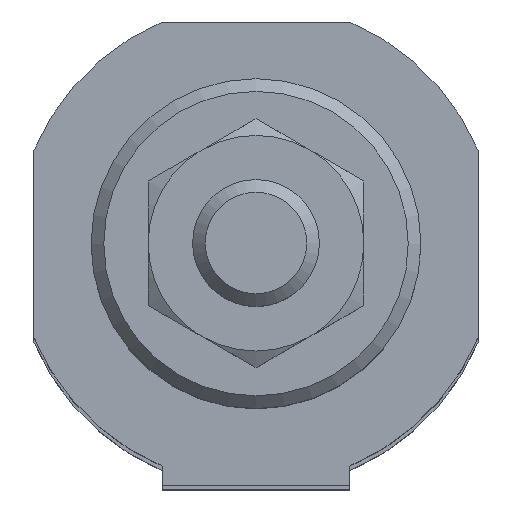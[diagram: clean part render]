
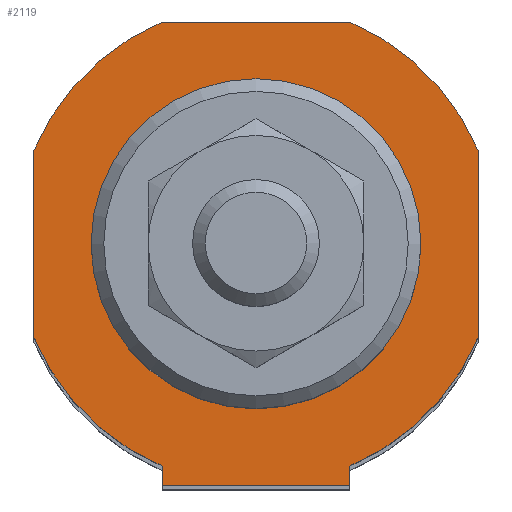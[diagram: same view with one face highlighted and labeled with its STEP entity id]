
A CAD part, top view. The second image highlights one B-rep face of the part: STEP entity #2119.
In plain terms, the highlighted planar face has unit normal (0, 0, 1).
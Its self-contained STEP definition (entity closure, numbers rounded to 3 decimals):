
#1123=CARTESIAN_POINT('',(7.399,-19.0,248.0));
#1124=VERTEX_POINT('',#1123);
#1125=CARTESIAN_POINT('',(-7.399,-19.0,248.0));
#1126=VERTEX_POINT('',#1125);
#1127=CARTESIAN_POINT('',(7.399,-19.0,248.0));
#1128=DIRECTION('',(-1.0,0.0,0.0));
#1129=VECTOR('',#1128,14.799);
#1130=LINE('',#1127,#1129);
#1131=EDGE_CURVE('',#1124,#1126,#1130,.T.);
#1545=CARTESIAN_POINT('',(-7.399,-17.5,248.0));
#1546=VERTEX_POINT('',#1545);
#1560=CARTESIAN_POINT('',(-7.399,-17.5,248.0));
#1561=DIRECTION('',(0.0,-1.0,0.0));
#1562=VECTOR('',#1561,1.5);
#1563=LINE('',#1560,#1562);
#1564=EDGE_CURVE('',#1546,#1126,#1563,.T.);
#1576=CARTESIAN_POINT('',(7.399,-17.5,248.0));
#1577=VERTEX_POINT('',#1576);
#1584=CARTESIAN_POINT('',(7.399,-17.5,248.0));
#1585=DIRECTION('',(0.0,-1.0,0.0));
#1586=VECTOR('',#1585,1.5);
#1587=LINE('',#1584,#1586);
#1588=EDGE_CURVE('',#1577,#1124,#1587,.T.);
#1801=CARTESIAN_POINT('',(13.0,0.,248.0));
#1802=VERTEX_POINT('',#1801);
#1803=CARTESIAN_POINT('',(0.,0.,248.0));
#1804=DIRECTION('',(0.0,0.0,-1.0));
#1805=DIRECTION('',(-1.0,0.0,0.0));
#1806=AXIS2_PLACEMENT_3D('',#1803,#1804,#1805);
#1807=CIRCLE('',#1806,13.0);
#1808=EDGE_CURVE('',#1802,#1802,#1807,.T.);
#2013=CARTESIAN_POINT('',(-17.5,-7.399,248.0));
#2014=VERTEX_POINT('',#2013);
#2015=CARTESIAN_POINT('',(-17.5,7.399,248.0));
#2016=VERTEX_POINT('',#2015);
#2017=CARTESIAN_POINT('',(-17.5,-7.399,248.0));
#2018=DIRECTION('',(0.0,1.0,0.0));
#2019=VECTOR('',#2018,14.799);
#2020=LINE('',#2017,#2019);
#2021=EDGE_CURVE('',#2014,#2016,#2020,.T.);
#2045=CARTESIAN_POINT('',(-7.399,17.5,248.0));
#2046=VERTEX_POINT('',#2045);
#2047=CARTESIAN_POINT('',(0.0,0.0,248.));
#2048=DIRECTION('',(0.0,0.0,-1.0));
#2049=DIRECTION('',(-0.389,0.921,0.0));
#2050=AXIS2_PLACEMENT_3D('',#2047,#2048,#2049);
#2051=CIRCLE('',#2050,19.0);
#2052=EDGE_CURVE('',#2016,#2046,#2051,.T.);
#2065=CARTESIAN_POINT('',(-11.374,11.374,248.0));
#2066=DIRECTION('',(0.0,0.0,1.0));
#2067=DIRECTION('',(1.0,0.0,0.0));
#2068=AXIS2_PLACEMENT_3D('',#2065,#2066,#2067);
#2069=PLANE('',#2068);
#2070=CARTESIAN_POINT('',(7.399,17.5,248.0));
#2071=VERTEX_POINT('',#2070);
#2072=CARTESIAN_POINT('',(-7.399,17.5,248.0));
#2073=DIRECTION('',(1.0,0.0,0.0));
#2074=VECTOR('',#2073,14.799);
#2075=LINE('',#2072,#2074);
#2076=EDGE_CURVE('',#2046,#2071,#2075,.T.);
#2077=ORIENTED_EDGE('',*,*,#2076,.F.);
#2078=ORIENTED_EDGE('',*,*,#2052,.F.);
#2079=ORIENTED_EDGE('',*,*,#2021,.F.);
#2080=CARTESIAN_POINT('',(0.0,0.0,248.));
#2081=DIRECTION('',(0.0,0.0,-1.0));
#2082=DIRECTION('',(-0.921,-0.389,0.0));
#2083=AXIS2_PLACEMENT_3D('',#2080,#2081,#2082);
#2084=CIRCLE('',#2083,19.0);
#2085=EDGE_CURVE('',#1546,#2014,#2084,.T.);
#2086=ORIENTED_EDGE('',*,*,#2085,.F.);
#2087=ORIENTED_EDGE('',*,*,#1564,.T.);
#2088=ORIENTED_EDGE('',*,*,#1131,.F.);
#2089=ORIENTED_EDGE('',*,*,#1588,.F.);
#2090=CARTESIAN_POINT('',(17.5,-7.399,248.0));
#2091=VERTEX_POINT('',#2090);
#2092=CARTESIAN_POINT('',(0.0,0.0,248.));
#2093=DIRECTION('',(0.0,0.0,-1.0));
#2094=DIRECTION('',(0.389,-0.921,0.0));
#2095=AXIS2_PLACEMENT_3D('',#2092,#2093,#2094);
#2096=CIRCLE('',#2095,19.0);
#2097=EDGE_CURVE('',#2091,#1577,#2096,.T.);
#2098=ORIENTED_EDGE('',*,*,#2097,.F.);
#2099=CARTESIAN_POINT('',(17.5,7.399,248.0));
#2100=VERTEX_POINT('',#2099);
#2101=CARTESIAN_POINT('',(17.5,7.399,248.0));
#2102=DIRECTION('',(0.0,-1.0,0.0));
#2103=VECTOR('',#2102,14.799);
#2104=LINE('',#2101,#2103);
#2105=EDGE_CURVE('',#2100,#2091,#2104,.T.);
#2106=ORIENTED_EDGE('',*,*,#2105,.F.);
#2107=CARTESIAN_POINT('',(0.0,0.0,248.));
#2108=DIRECTION('',(0.0,0.0,-1.0));
#2109=DIRECTION('',(0.921,0.389,0.0));
#2110=AXIS2_PLACEMENT_3D('',#2107,#2108,#2109);
#2111=CIRCLE('',#2110,19.0);
#2112=EDGE_CURVE('',#2071,#2100,#2111,.T.);
#2113=ORIENTED_EDGE('',*,*,#2112,.F.);
#2114=EDGE_LOOP('',(#2077,#2078,#2079,#2086,#2087,#2088,#2089,#2098,#2106,#2113));
#2115=FACE_OUTER_BOUND('',#2114,.T.);
#2116=ORIENTED_EDGE('',*,*,#1808,.T.);
#2117=EDGE_LOOP('',(#2116));
#2118=FACE_BOUND('',#2117,.T.);
#2119=ADVANCED_FACE('',(#2115,#2118),#2069,.T.);
